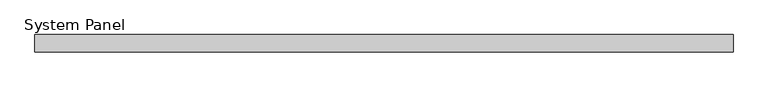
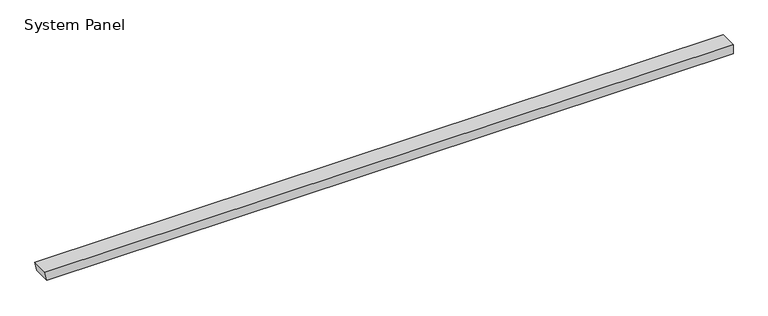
"""IFC4 building model written with IfcOpenShell, lengths in millimetres: plate geometry, System Panel : Equitilt 150mm Horizontal - Plain RHEA - MW."""

from ifc_helpers import new_model, si_unit, frame, origin, place, context, project, spatial, polyline, outline, extrude, source, transform, mapped, element, save


def system_panel_bdb03481(model_context):
    return source(origin(), model_context, "Body", "SweptSolid", [
        extrude(outline(polyline([(0.0, -2972.6149856), (0.0, 2990.0), (79.9704237, 2990.0), (79.9704237, -2990.0), (0.0, -2972.6149856)])), frame((0.0, -150.0, 0.0), z_axis=(0.0, 1.0, 0.0), x_axis=(0.0, 0.0, 1.0)), (0.0, 0.0, 1.0), 150.0),
    ])


if __name__ == "__main__":
    model = new_model("IFC4")
    model_context = context("Model", 3, world=origin())
    ifc_project = project(units=[si_unit("LENGTHUNIT", "METRE", prefix="MILLI")], contexts=[model_context])
    site = spatial("IfcSite", under=ifc_project)
    building = spatial("IfcBuilding", under=site)
    placement = place(None, origin())
    system_panel_shape = system_panel_bdb03481(model_context)
    element("IfcPlate", 1, ObjectType="System Panel : Equitilt 150mm Horizontal - Plain RHEA - MW", at=placement, inside=building, context=model_context, shape_type="MappedRepresentation", body=[
        mapped(system_panel_shape, transform((0.0, 0.0, 0.0), x_axis=(1.0, 0.0, 0.0), y_axis=(0.0, 1.0, 0.0), z_axis=(0.0, 0.0, 1.0))),
    ])
    save(model, "model.ifc")
